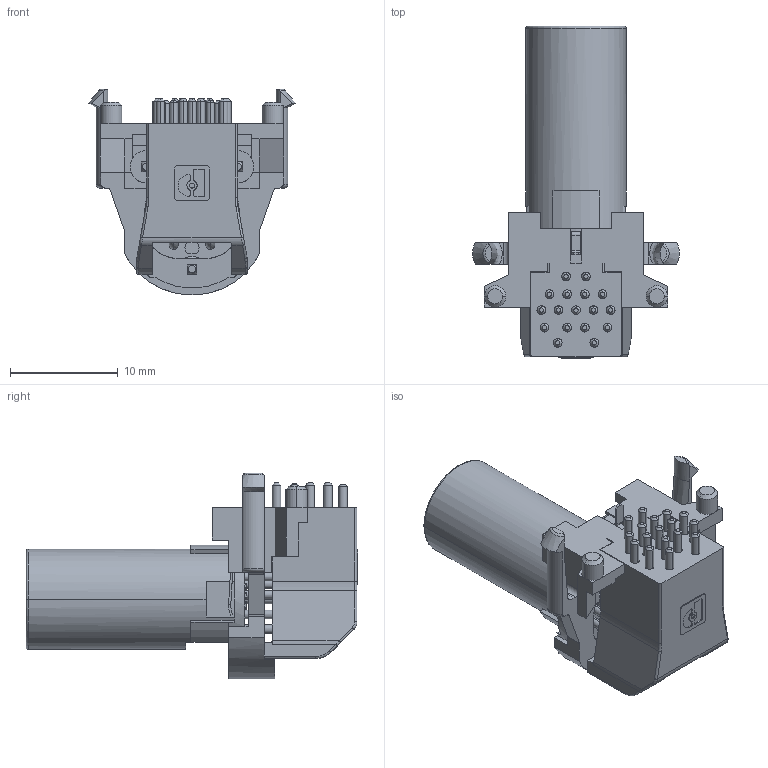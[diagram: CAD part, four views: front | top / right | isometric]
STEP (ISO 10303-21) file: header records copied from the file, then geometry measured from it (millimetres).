
FILE_DESCRIPTION((''),'2;1');
FILE_NAME('BS-17P2NG20000_SW0002','2011-12-02T',('bthumm'),(''),'PRO/ENGINEER BY PARAMETRIC TECHNOLOGY CORPORATION, 2011220','PRO/ENGINEER BY PARAMETRIC TECHNOLOGY CORPORATION, 2011220','');
FILE_SCHEMA(('AUTOMOTIVE_DESIGN { 1 0 10303 214 1 1 1 1 }'));
Length unit declared in the file: millimetre
Products named in the file (1): BS-17P2NG20000_SW0002
Bounding box: 19.2 x 30.8 x 19.08 mm (x, y, z)
Volume: 2002.5 mm3; surface area: 3581.2 mm2
Topology: 1 solids, 1 shells, 913 faces, 2419 edges, 1484 vertices
Faces by surface type: plane 436, cylinder 259, torus 85, cone 50, sphere 34, extrusion 25, bspline 24
Entity records: 29269 total; most frequent: CARTESIAN_POINT 6392, DIRECTION 4759, ORIENTED_EDGE 4758, EDGE_CURVE 2379, AXIS2_PLACEMENT_3D 1651, VERTEX_POINT 1484, VECTOR 1457, LINE 1432
